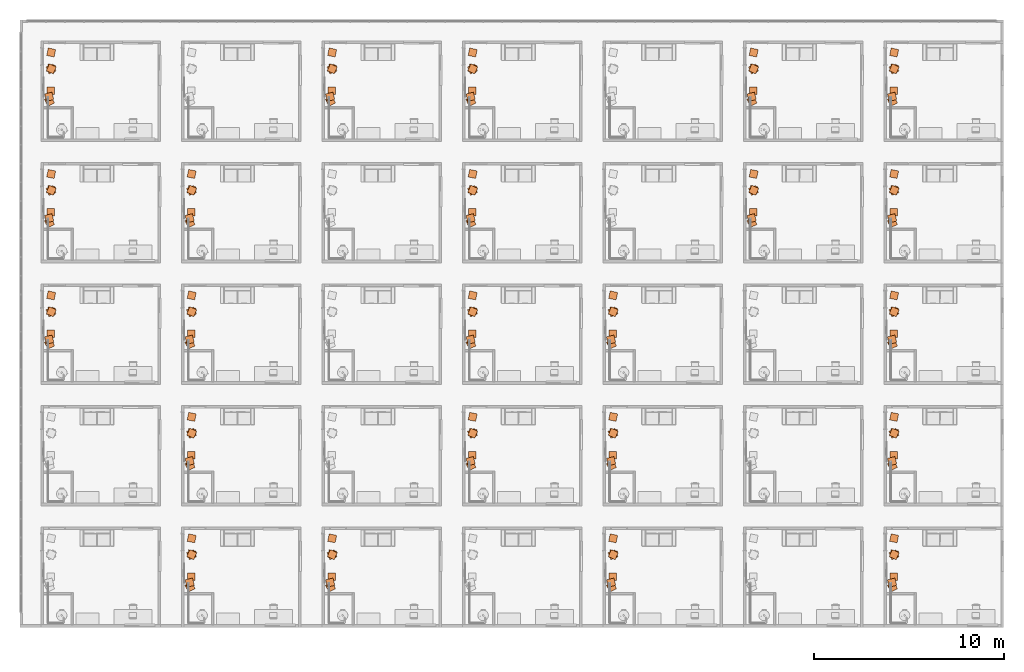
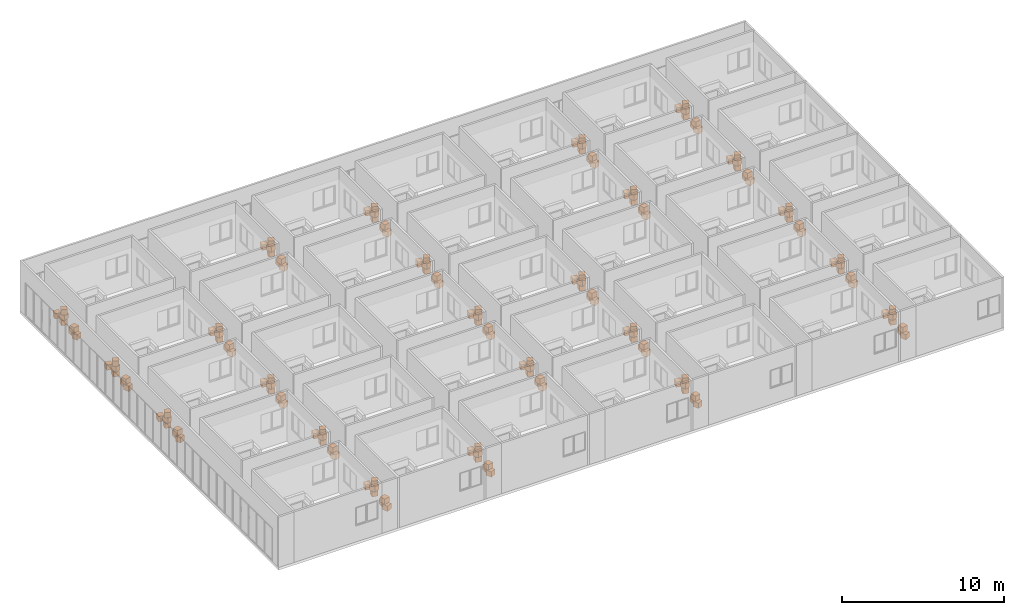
# One storey, part 72 of 72: 23 proxies.
"""IFC4 building model written with IfcOpenShell, lengths in centimetres."""

from ifc_helpers import new_model, entity, si_unit, converted_unit, derived_unit, direction, frame, origin, place, context, subcontext, project, spatial, indexed_curve, outline, extrude, source, transform, mapped, material, type_object, type_shapes, element, save


model = new_model("IFC4")

# Units and contexts
model_context = context("Model", 3, precision=0.001, world=origin(), true_north=direction((6.123233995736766e-17, 1.0)))
body_context = subcontext(model_context, "Body", "Model", "MODEL_VIEW")
ifc_project = project(units=[si_unit("LENGTHUNIT", "METRE", prefix="CENTI"), si_unit("AREAUNIT", "SQUARE_METRE"), si_unit("VOLUMEUNIT", "CUBIC_METRE"), derived_unit("THERMALTRANSMITTANCEUNIT", [(si_unit("MASSUNIT", "GRAM", prefix="KILO"), 1), (si_unit("THERMODYNAMICTEMPERATUREUNIT", "KELVIN"), -1), (si_unit("TIMEUNIT", "SECOND"), -3)]), converted_unit("PLANEANGLEUNIT", "DEGREE", entity("IfcPlaneAngleMeasure", 0.017453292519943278), si_unit("PLANEANGLEUNIT", "RADIAN"), dimensions=[0, 0, 0, 0, 0, 0, 0]), derived_unit("MASSDENSITYUNIT", [(si_unit("MASSUNIT", "GRAM", prefix="KILO"), 1), (si_unit("LENGTHUNIT", "METRE"), -3)]), derived_unit("VAPORPERMEABILITYUNIT", [(si_unit("LENGTHUNIT", "METRE"), -1), (si_unit("TIMEUNIT", "SECOND"), 1)]), derived_unit("USERDEFINED", [(si_unit("MASSUNIT", "GRAM", prefix="KILO"), 1), (si_unit("TIMEUNIT", "SECOND"), -3), (si_unit("LENGTHUNIT", "METRE"), 3), (si_unit("ELECTRICCURRENTUNIT", "AMPERE"), -2)]), derived_unit("SPECIFICHEATCAPACITYUNIT", [(si_unit("THERMODYNAMICTEMPERATUREUNIT", "KELVIN"), -1), (si_unit("LENGTHUNIT", "METRE"), 2), (si_unit("TIMEUNIT", "SECOND"), -2)]), derived_unit("THERMALCONDUCTANCEUNIT", [(si_unit("MASSUNIT", "GRAM", prefix="KILO"), 1), (si_unit("THERMODYNAMICTEMPERATUREUNIT", "KELVIN"), -1), (si_unit("TIMEUNIT", "SECOND"), -3), (si_unit("LENGTHUNIT", "METRE"), 1)]), si_unit("PRESSUREUNIT", "PASCAL"), derived_unit("MODULUSOFELASTICITYUNIT", [(si_unit("MASSUNIT", "GRAM", prefix="KILO"), 1), (si_unit("LENGTHUNIT", "METRE"), -1), (si_unit("TIMEUNIT", "SECOND"), -2)]), derived_unit("THERMALEXPANSIONCOEFFICIENTUNIT", [(si_unit("THERMODYNAMICTEMPERATUREUNIT", "KELVIN"), -1)])], contexts=[model_context])

# Site, building, storey, space
site_placement = place(None, origin())
site = spatial("IfcSite", under=ifc_project, at=site_placement, Name="Default", CompositionType="ELEMENT")
building_placement = place(site_placement, origin())
building = spatial("IfcBuilding", under=site, at=building_placement, Name="IDS Escape Game Building", CompositionType="ELEMENT")
storey_placement = place(building_placement, frame((0.0, 0.0, 800.0)))
storey = spatial("IfcBuildingStorey", under=building, at=storey_placement, Name="02_Second Floor", CompositionType="ELEMENT", Elevation=800.0)
space_1_placement = place(storey_placement, origin())
space_1 = spatial("IfcSpace", under=storey, at=space_1_placement, Name="77", CompositionType="ELEMENT", PredefinedType="NOTDEFINED")

# Proxy
ifc_material = material(Name="<Unnamed>")
building_element_proxy_type = type_object("IfcBuildingElementProxyType", Name="Moving Boxes:Moving Boxes", PredefinedType="NOTDEFINED", material=ifc_material)
shared_shape = source(origin(), body_context, "Body", "SweptSolid", [
    extrude(outline(indexed_curve([(-20.0, -20.0), (20.0, -20.0), (20.0, 20.0), (-20.0, 20.0), (-20.0, -20.0)], self_intersect=False)), frame((-129.4888892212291, -20.0, 0.0), z_axis=(0.0, 0.0, 1.0), x_axis=(-1.0, 0.0, 0.0)), (0.0, 0.0, 1.0), 40.0),
    extrude(outline(indexed_curve([(-20.0, -20.0), (20.00000000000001, -19.999999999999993), (20.0, 20.0), (-20.00000000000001, 19.999999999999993), (-20.0, -20.0)], self_intersect=False)), frame((-75.45547766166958, -26.102318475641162, 0.0), z_axis=(0.0, 0.0, 1.0), x_axis=(-0.906307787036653, -0.422618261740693, 0.0)), (0.0, 0.0, 1.0), 39.99999999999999),
    extrude(outline(indexed_curve([(-20.00000000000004, -19.999999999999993), (20.00000000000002, -19.999999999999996), (20.000000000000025, 19.999999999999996), (-20.000000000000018, 20.000000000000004), (-20.00000000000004, -19.999999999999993)], self_intersect=False)), frame((-98.66287120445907, -27.650524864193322, 40.0), z_axis=(0.0, 0.0, 1.0), x_axis=(-0.970295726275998, -0.24192189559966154, 0.0)), (0.0, 0.0, 1.0), 39.99999999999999),
    extrude(outline(indexed_curve([(-20.000000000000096, -20.00000000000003), (20.000000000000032, -20.000000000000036), (20.000000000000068, 20.000000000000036), (-20.00000000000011, 20.00000000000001), (-20.000000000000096, -20.00000000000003)], self_intersect=False)), frame((-247.73174870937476, -17.18153286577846, 0.0), z_axis=(0.0, 0.0, 1.0), x_axis=(-0.9794785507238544, 0.2015484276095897, 0.0)), (0.0, 0.0, 1.0), 39.999999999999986),
    extrude(outline(indexed_curve([(-20.00000000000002, -20.00000000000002), (20.00000000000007, -20.00000000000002), (20.000000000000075, 20.00000000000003), (-20.00000000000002, 20.00000000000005), (-20.00000000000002, -20.00000000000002)], self_intersect=False)), frame((-331.1917744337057, -17.18153286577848, 0.0), z_axis=(0.0, 0.0, 1.0), x_axis=(-0.9794785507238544, 0.2015484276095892, 0.0)), (0.0, 0.0, 1.0), 40.0),
    extrude(outline(indexed_curve([(-20.000000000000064, -20.000000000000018), (20.0, -20.000000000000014), (20.000000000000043, 20.000000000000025), (-20.00000000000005, 20.000000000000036), (-20.000000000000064, -20.000000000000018)], self_intersect=False)), frame((-244.74820724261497, -18.001176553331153, 40.0), z_axis=(0.0, 0.0, 1.0), x_axis=(-0.9247289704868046, -0.38062623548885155, 0.0)), (0.0, 0.0, 1.0), 40.0),
    extrude(outline(indexed_curve([(-20.000000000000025, -20.000000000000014), (20.000000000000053, -20.00000000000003), (20.000000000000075, 20.000000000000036), (-20.000000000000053, 20.000000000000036), (-20.000000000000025, -20.000000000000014)], self_intersect=False)), frame((-245.38613222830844, -16.613316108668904, 80.0), z_axis=(0.0, 0.0, 1.0), x_axis=(-0.9106045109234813, 0.41327887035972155, 0.0)), (0.0, 0.0, 1.0), 39.99999999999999),
])
type_shapes(building_element_proxy_type, [shared_shape])
proxy_1_placement = place(space_1_placement, frame((4492.0, 135.0, 0.0), z_axis=(0.0, 0.0, 1.0), x_axis=(0.0, -1.0, 0.0)))
element("IfcBuildingElementProxy", 1, at=proxy_1_placement, inside=space_1, type_object=building_element_proxy_type, material=ifc_material, Name="Moving Boxes:Moving Boxes", ObjectType="Moving Boxes:Moving Boxes", PredefinedType="NOTDEFINED", context=body_context, shape_type="MappedRepresentation", body=[
    mapped(shared_shape, transform((0.0, 0.0, 0.0), scale=1.0)),
])

# Space
space_2_placement = place(storey_placement, origin())
space_2 = spatial("IfcSpace", under=storey, at=space_2_placement, Name="84", CompositionType="ELEMENT", PredefinedType="NOTDEFINED")

# Proxy
proxy_2_placement = place(space_2_placement, frame((4492.0, 773.0, 0.0), z_axis=(0.0, 0.0, 1.0), x_axis=(0.0, -1.0, 0.0)))
element("IfcBuildingElementProxy", 2, at=proxy_2_placement, inside=space_2, type_object=building_element_proxy_type, material=ifc_material, Name="Moving Boxes:Moving Boxes", ObjectType="Moving Boxes:Moving Boxes", PredefinedType="NOTDEFINED", context=body_context, shape_type="MappedRepresentation", body=[
    mapped(shared_shape, transform((0.0, 0.0, 0.0), scale=1.0)),
])

# Space
space_3_placement = place(storey_placement, origin())
space_3 = spatial("IfcSpace", under=storey, at=space_3_placement, Name="91", CompositionType="ELEMENT", PredefinedType="NOTDEFINED")

# Proxy
proxy_3_placement = place(space_3_placement, frame((4492.0, 1411.0, 0.0), z_axis=(0.0, 0.0, 1.0), x_axis=(0.0, -1.0, 0.0)))
element("IfcBuildingElementProxy", 3, at=proxy_3_placement, inside=space_3, type_object=building_element_proxy_type, material=ifc_material, Name="Moving Boxes:Moving Boxes", ObjectType="Moving Boxes:Moving Boxes", PredefinedType="NOTDEFINED", context=body_context, shape_type="MappedRepresentation", body=[
    mapped(shared_shape, transform((0.0, 0.0, 0.0), scale=1.0)),
])

# Space
space_4_placement = place(storey_placement, origin())
space_4 = spatial("IfcSpace", under=storey, at=space_4_placement, Name="98", CompositionType="ELEMENT", PredefinedType="NOTDEFINED")

# Proxy
proxy_4_placement = place(space_4_placement, frame((4492.0, 2049.0, 0.0), z_axis=(0.0, 0.0, 1.0), x_axis=(0.0, -1.0, 0.0)))
element("IfcBuildingElementProxy", 4, at=proxy_4_placement, inside=space_4, type_object=building_element_proxy_type, material=ifc_material, Name="Moving Boxes:Moving Boxes", ObjectType="Moving Boxes:Moving Boxes", PredefinedType="NOTDEFINED", context=body_context, shape_type="MappedRepresentation", body=[
    mapped(shared_shape, transform((0.0, 0.0, 0.0), scale=1.0)),
])

# Space
space_5_placement = place(storey_placement, origin())
space_5 = spatial("IfcSpace", under=storey, at=space_5_placement, Name="105", CompositionType="ELEMENT", PredefinedType="NOTDEFINED")

# Proxy
proxy_5_placement = place(space_5_placement, frame((4492.0, 2687.0, 0.0), z_axis=(0.0, 0.0, 1.0), x_axis=(0.0, -1.0, 0.0)))
element("IfcBuildingElementProxy", 5, at=proxy_5_placement, inside=space_5, type_object=building_element_proxy_type, material=ifc_material, Name="Moving Boxes:Moving Boxes", ObjectType="Moving Boxes:Moving Boxes", PredefinedType="NOTDEFINED", context=body_context, shape_type="MappedRepresentation", body=[
    mapped(shared_shape, transform((0.0, 0.0, 0.0), scale=1.0)),
])

# Space
space_6_placement = place(storey_placement, origin())
space_6 = spatial("IfcSpace", under=storey, at=space_6_placement, Name="97", CompositionType="ELEMENT", PredefinedType="NOTDEFINED")

# Proxy
proxy_6_placement = place(space_6_placement, frame((3754.0, 2049.0, 0.0), z_axis=(0.0, 0.0, 1.0), x_axis=(0.0, -1.0, 0.0)))
element("IfcBuildingElementProxy", 6, at=proxy_6_placement, inside=space_6, type_object=building_element_proxy_type, material=ifc_material, Name="Moving Boxes:Moving Boxes", ObjectType="Moving Boxes:Moving Boxes", PredefinedType="NOTDEFINED", context=body_context, shape_type="MappedRepresentation", body=[
    mapped(shared_shape, transform((0.0, 0.0, 0.0), scale=1.0)),
])

# Space
space_7_placement = place(storey_placement, origin())
space_7 = spatial("IfcSpace", under=storey, at=space_7_placement, Name="104", CompositionType="ELEMENT", PredefinedType="NOTDEFINED")

# Proxy
proxy_7_placement = place(space_7_placement, frame((3754.0, 2687.0, 0.0), z_axis=(0.0, 0.0, 1.0), x_axis=(0.0, -1.0, 0.0)))
element("IfcBuildingElementProxy", 7, at=proxy_7_placement, inside=space_7, type_object=building_element_proxy_type, material=ifc_material, Name="Moving Boxes:Moving Boxes", ObjectType="Moving Boxes:Moving Boxes", PredefinedType="NOTDEFINED", context=body_context, shape_type="MappedRepresentation", body=[
    mapped(shared_shape, transform((0.0, 0.0, 0.0), scale=1.0)),
])

# Space
space_8_placement = place(storey_placement, origin())
space_8 = spatial("IfcSpace", under=storey, at=space_8_placement, Name="75", CompositionType="ELEMENT", PredefinedType="NOTDEFINED")

# Proxy
proxy_8_placement = place(space_8_placement, frame((3016.0, 135.0, 0.0), z_axis=(0.0, 0.0, 1.0), x_axis=(0.0, -1.0, 0.0)))
element("IfcBuildingElementProxy", 8, at=proxy_8_placement, inside=space_8, type_object=building_element_proxy_type, material=ifc_material, Name="Moving Boxes:Moving Boxes", ObjectType="Moving Boxes:Moving Boxes", PredefinedType="NOTDEFINED", context=body_context, shape_type="MappedRepresentation", body=[
    mapped(shared_shape, transform((0.0, 0.0, 0.0), scale=1.0)),
])

# Space
space_9_placement = place(storey_placement, origin())
space_9 = spatial("IfcSpace", under=storey, at=space_9_placement, Name="82", CompositionType="ELEMENT", PredefinedType="NOTDEFINED")

# Proxy
proxy_9_placement = place(space_9_placement, frame((3016.0, 773.0, 0.0), z_axis=(0.0, 0.0, 1.0), x_axis=(0.0, -1.0, 0.0)))
element("IfcBuildingElementProxy", 9, at=proxy_9_placement, inside=space_9, type_object=building_element_proxy_type, material=ifc_material, Name="Moving Boxes:Moving Boxes", ObjectType="Moving Boxes:Moving Boxes", PredefinedType="NOTDEFINED", context=body_context, shape_type="MappedRepresentation", body=[
    mapped(shared_shape, transform((0.0, 0.0, 0.0), scale=1.0)),
])

# Space
space_10_placement = place(storey_placement, origin())
space_10 = spatial("IfcSpace", under=storey, at=space_10_placement, Name="89", CompositionType="ELEMENT", PredefinedType="NOTDEFINED")

# Proxy
proxy_10_placement = place(space_10_placement, frame((3016.0, 1411.0, 0.0), z_axis=(0.0, 0.0, 1.0), x_axis=(0.0, -1.0, 0.0)))
element("IfcBuildingElementProxy", 10, at=proxy_10_placement, inside=space_10, type_object=building_element_proxy_type, material=ifc_material, Name="Moving Boxes:Moving Boxes", ObjectType="Moving Boxes:Moving Boxes", PredefinedType="NOTDEFINED", context=body_context, shape_type="MappedRepresentation", body=[
    mapped(shared_shape, transform((0.0, 0.0, 0.0), scale=1.0)),
])

# Space
space_11_placement = place(storey_placement, origin())
space_11 = spatial("IfcSpace", under=storey, at=space_11_placement, Name="81", CompositionType="ELEMENT", PredefinedType="NOTDEFINED")

# Proxy
proxy_11_placement = place(space_11_placement, frame((2278.0, 773.0, 0.0), z_axis=(0.0, 0.0, 1.0), x_axis=(0.0, -1.0, 0.0)))
element("IfcBuildingElementProxy", 11, at=proxy_11_placement, inside=space_11, type_object=building_element_proxy_type, material=ifc_material, Name="Moving Boxes:Moving Boxes", ObjectType="Moving Boxes:Moving Boxes", PredefinedType="NOTDEFINED", context=body_context, shape_type="MappedRepresentation", body=[
    mapped(shared_shape, transform((0.0, 0.0, 0.0), scale=1.0)),
])

# Space
space_12_placement = place(storey_placement, origin())
space_12 = spatial("IfcSpace", under=storey, at=space_12_placement, Name="88", CompositionType="ELEMENT", PredefinedType="NOTDEFINED")

# Proxy
proxy_12_placement = place(space_12_placement, frame((2278.0, 1411.0, 0.0), z_axis=(0.0, 0.0, 1.0), x_axis=(0.0, -1.0, 0.0)))
element("IfcBuildingElementProxy", 12, at=proxy_12_placement, inside=space_12, type_object=building_element_proxy_type, material=ifc_material, Name="Moving Boxes:Moving Boxes", ObjectType="Moving Boxes:Moving Boxes", PredefinedType="NOTDEFINED", context=body_context, shape_type="MappedRepresentation", body=[
    mapped(shared_shape, transform((0.0, 0.0, 0.0), scale=1.0)),
])

# Space
space_13_placement = place(storey_placement, origin())
space_13 = spatial("IfcSpace", under=storey, at=space_13_placement, Name="95", CompositionType="ELEMENT", PredefinedType="NOTDEFINED")

# Proxy
proxy_13_placement = place(space_13_placement, frame((2278.0, 2049.0, 0.0), z_axis=(0.0, 0.0, 1.0), x_axis=(0.0, -1.0, 0.0)))
element("IfcBuildingElementProxy", 13, at=proxy_13_placement, inside=space_13, type_object=building_element_proxy_type, material=ifc_material, Name="Moving Boxes:Moving Boxes", ObjectType="Moving Boxes:Moving Boxes", PredefinedType="NOTDEFINED", context=body_context, shape_type="MappedRepresentation", body=[
    mapped(shared_shape, transform((0.0, 0.0, 0.0), scale=1.0)),
])

# Space
space_14_placement = place(storey_placement, origin())
space_14 = spatial("IfcSpace", under=storey, at=space_14_placement, Name="102", CompositionType="ELEMENT", PredefinedType="NOTDEFINED")

# Proxy
proxy_14_placement = place(space_14_placement, frame((2278.0, 2687.0, 0.0), z_axis=(0.0, 0.0, 1.0), x_axis=(0.0, -1.0, 0.0)))
element("IfcBuildingElementProxy", 14, at=proxy_14_placement, inside=space_14, type_object=building_element_proxy_type, material=ifc_material, Name="Moving Boxes:Moving Boxes", ObjectType="Moving Boxes:Moving Boxes", PredefinedType="NOTDEFINED", context=body_context, shape_type="MappedRepresentation", body=[
    mapped(shared_shape, transform((0.0, 0.0, 0.0), scale=1.0)),
])

# Space
space_15_placement = place(storey_placement, origin())
space_15 = spatial("IfcSpace", under=storey, at=space_15_placement, Name="73", CompositionType="ELEMENT", PredefinedType="NOTDEFINED")

# Proxy
proxy_15_placement = place(space_15_placement, frame((1540.0, 135.0, 0.0), z_axis=(0.0, 0.0, 1.0), x_axis=(0.0, -1.0, 0.0)))
element("IfcBuildingElementProxy", 15, at=proxy_15_placement, inside=space_15, type_object=building_element_proxy_type, material=ifc_material, Name="Moving Boxes:Moving Boxes", ObjectType="Moving Boxes:Moving Boxes", PredefinedType="NOTDEFINED", context=body_context, shape_type="MappedRepresentation", body=[
    mapped(shared_shape, transform((0.0, 0.0, 0.0), scale=1.0)),
])

# Space
space_16_placement = place(storey_placement, origin())
space_16 = spatial("IfcSpace", under=storey, at=space_16_placement, Name="101", CompositionType="ELEMENT", PredefinedType="NOTDEFINED")

# Proxy
proxy_16_placement = place(space_16_placement, frame((1540.0, 2687.0, 0.0), z_axis=(0.0, 0.0, 1.0), x_axis=(0.0, -1.0, 0.0)))
element("IfcBuildingElementProxy", 16, at=proxy_16_placement, inside=space_16, type_object=building_element_proxy_type, material=ifc_material, Name="Moving Boxes:Moving Boxes", ObjectType="Moving Boxes:Moving Boxes", PredefinedType="NOTDEFINED", context=body_context, shape_type="MappedRepresentation", body=[
    mapped(shared_shape, transform((0.0, 0.0, 0.0), scale=1.0)),
])

# Space
space_17_placement = place(storey_placement, origin())
space_17 = spatial("IfcSpace", under=storey, at=space_17_placement, Name="72", CompositionType="ELEMENT", PredefinedType="NOTDEFINED")

# Proxy
proxy_17_placement = place(space_17_placement, frame((802.0, 135.0, 0.0), z_axis=(0.0, 0.0, 1.0), x_axis=(0.0, -1.0, 0.0)))
element("IfcBuildingElementProxy", 17, at=proxy_17_placement, inside=space_17, type_object=building_element_proxy_type, material=ifc_material, Name="Moving Boxes:Moving Boxes", ObjectType="Moving Boxes:Moving Boxes", PredefinedType="NOTDEFINED", context=body_context, shape_type="MappedRepresentation", body=[
    mapped(shared_shape, transform((0.0, 0.0, 0.0), scale=1.0)),
])

# Space
space_18_placement = place(storey_placement, origin())
space_18 = spatial("IfcSpace", under=storey, at=space_18_placement, Name="79", CompositionType="ELEMENT", PredefinedType="NOTDEFINED")

# Proxy
proxy_18_placement = place(space_18_placement, frame((802.0, 773.0, 0.0), z_axis=(0.0, 0.0, 1.0), x_axis=(0.0, -1.0, 0.0)))
element("IfcBuildingElementProxy", 18, at=proxy_18_placement, inside=space_18, type_object=building_element_proxy_type, material=ifc_material, Name="Moving Boxes:Moving Boxes", ObjectType="Moving Boxes:Moving Boxes", PredefinedType="NOTDEFINED", context=body_context, shape_type="MappedRepresentation", body=[
    mapped(shared_shape, transform((0.0, 0.0, 0.0), scale=1.0)),
])

# Space
space_19_placement = place(storey_placement, origin())
space_19 = spatial("IfcSpace", under=storey, at=space_19_placement, Name="86", CompositionType="ELEMENT", PredefinedType="NOTDEFINED")

# Proxy
proxy_19_placement = place(space_19_placement, frame((802.0, 1411.0, 0.0), z_axis=(0.0, 0.0, 1.0), x_axis=(0.0, -1.0, 0.0)))
element("IfcBuildingElementProxy", 19, at=proxy_19_placement, inside=space_19, type_object=building_element_proxy_type, material=ifc_material, Name="Moving Boxes:Moving Boxes", ObjectType="Moving Boxes:Moving Boxes", PredefinedType="NOTDEFINED", context=body_context, shape_type="MappedRepresentation", body=[
    mapped(shared_shape, transform((0.0, 0.0, 0.0), scale=1.0)),
])

# Space
space_20_placement = place(storey_placement, origin())
space_20 = spatial("IfcSpace", under=storey, at=space_20_placement, Name="93", CompositionType="ELEMENT", PredefinedType="NOTDEFINED")

# Proxy
proxy_20_placement = place(space_20_placement, frame((802.0, 2049.0, 0.0), z_axis=(0.0, 0.0, 1.0), x_axis=(0.0, -1.0, 0.0)))
element("IfcBuildingElementProxy", 20, at=proxy_20_placement, inside=space_20, type_object=building_element_proxy_type, material=ifc_material, Name="Moving Boxes:Moving Boxes", ObjectType="Moving Boxes:Moving Boxes", PredefinedType="NOTDEFINED", context=body_context, shape_type="MappedRepresentation", body=[
    mapped(shared_shape, transform((0.0, 0.0, 0.0), scale=1.0)),
])

# Space
space_21_placement = place(storey_placement, origin())
space_21 = spatial("IfcSpace", under=storey, at=space_21_placement, Name="85", CompositionType="ELEMENT", PredefinedType="NOTDEFINED")

# Proxy
proxy_21_placement = place(space_21_placement, frame((64.0, 1411.0, 0.0), z_axis=(0.0, 0.0, 1.0), x_axis=(0.0, -1.0, 0.0)))
element("IfcBuildingElementProxy", 21, at=proxy_21_placement, inside=space_21, type_object=building_element_proxy_type, material=ifc_material, Name="Moving Boxes:Moving Boxes", ObjectType="Moving Boxes:Moving Boxes", PredefinedType="NOTDEFINED", context=body_context, shape_type="MappedRepresentation", body=[
    mapped(shared_shape, transform((0.0, 0.0, 0.0), scale=1.0)),
])

# Space
space_22_placement = place(storey_placement, origin())
space_22 = spatial("IfcSpace", under=storey, at=space_22_placement, Name="92", CompositionType="ELEMENT", PredefinedType="NOTDEFINED")

# Proxy
proxy_22_placement = place(space_22_placement, frame((64.0, 2049.0, 0.0), z_axis=(0.0, 0.0, 1.0), x_axis=(0.0, -1.0, 0.0)))
element("IfcBuildingElementProxy", 22, at=proxy_22_placement, inside=space_22, type_object=building_element_proxy_type, material=ifc_material, Name="Moving Boxes:Moving Boxes", ObjectType="Moving Boxes:Moving Boxes", PredefinedType="NOTDEFINED", context=body_context, shape_type="MappedRepresentation", body=[
    mapped(shared_shape, transform((0.0, 0.0, 0.0), scale=1.0)),
])

# Space
space_23_placement = place(storey_placement, origin())
space_23 = spatial("IfcSpace", under=storey, at=space_23_placement, Name="99", CompositionType="ELEMENT", PredefinedType="NOTDEFINED")

# Proxy
proxy_23_placement = place(space_23_placement, frame((64.0, 2687.0, 0.0), z_axis=(0.0, 0.0, 1.0), x_axis=(0.0, -1.0, 0.0)))
element("IfcBuildingElementProxy", 23, at=proxy_23_placement, inside=space_23, type_object=building_element_proxy_type, material=ifc_material, Name="Moving Boxes:Moving Boxes", ObjectType="Moving Boxes:Moving Boxes", PredefinedType="NOTDEFINED", context=body_context, shape_type="MappedRepresentation", body=[
    mapped(shared_shape, transform((0.0, 0.0, 0.0), scale=1.0)),
])

save(model, "model.ifc")
